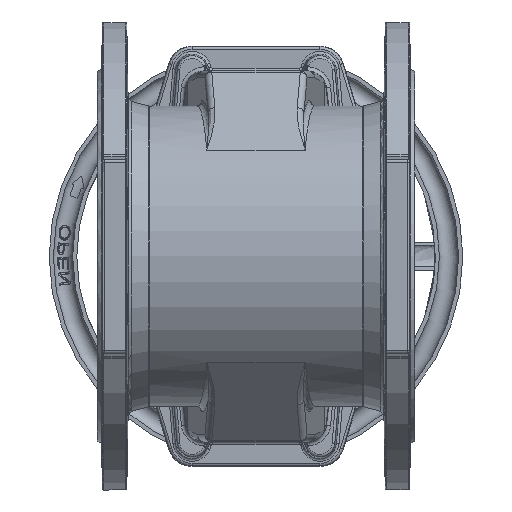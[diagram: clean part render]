
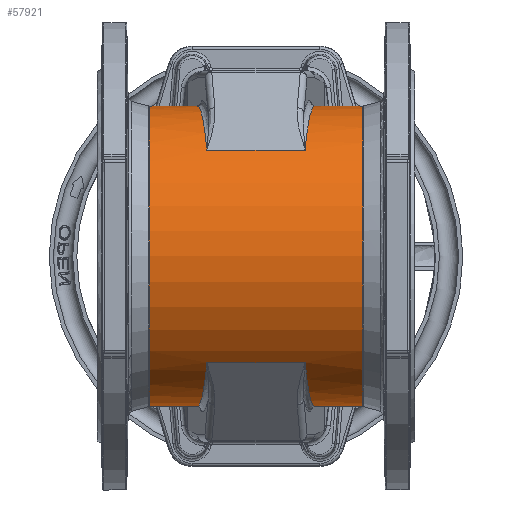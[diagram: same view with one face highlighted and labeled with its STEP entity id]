
A CAD part, front view. The second image highlights one B-rep face of the part: STEP entity #57921.
In plain terms, the highlighted cylindrical face has radius 109 mm (diameter 218 mm), a partial arc.
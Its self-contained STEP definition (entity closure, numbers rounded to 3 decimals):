
#39681 = CARTESIAN_POINT ( 'NONE',  ( -35.621, -77.075, 77.075 ) ) ;
#39683 =( BOUNDED_CURVE ( )  B_SPLINE_CURVE ( 3, ( #39681, #39723, #39722, #39721 ),
 .UNSPECIFIED., .F., .T. ) 
 B_SPLINE_CURVE_WITH_KNOTS ( ( 4, 4 ),
 ( 3.927, 6.216 ),
 .UNSPECIFIED. ) 
 CURVE ( )  GEOMETRIC_REPRESENTATION_ITEM ( )  RATIONAL_B_SPLINE_CURVE ( ( 1., 0.609, 0.609, 1. ) ) 
 REPRESENTATION_ITEM ( '' )  );
#39684 = DIRECTION ( 'NONE',  ( -1., 0., 0. ) ) ;
#39685 = VECTOR ( 'NONE', #39684, 1000. ) ;
#39686 = CARTESIAN_POINT ( 'NONE',  ( 59.501, 108.755, 7.299 ) ) ;
#39690 = LINE ( 'NONE', #39686, #39685 ) ;
#39721 = CARTESIAN_POINT ( 'NONE',  ( -52.476, 108.755, 7.299 ) ) ;
#39722 = CARTESIAN_POINT ( 'NONE',  ( -51.816, 101.479, 115.712 ) ) ;
#39723 = CARTESIAN_POINT ( 'NONE',  ( -42.59, -0.243, 153.906 ) ) ;
#40341 = DIRECTION ( 'NONE',  ( 1., 0., 0. ) ) ;
#40342 = VECTOR ( 'NONE', #40341, 1000. ) ;
#40345 = CARTESIAN_POINT ( 'NONE',  ( 59.501, 108.755, -7.299 ) ) ;
#40346 =( BOUNDED_CURVE ( )  B_SPLINE_CURVE ( 3, ( #40382, #40381, #40380, #40379 ),
 .UNSPECIFIED., .F., .T. ) 
 B_SPLINE_CURVE_WITH_KNOTS ( ( 4, 4 ),
 ( 0.785, 3.075 ),
 .UNSPECIFIED. ) 
 CURVE ( )  GEOMETRIC_REPRESENTATION_ITEM ( )  RATIONAL_B_SPLINE_CURVE ( ( 1., 0.609, 0.609, 1. ) ) 
 REPRESENTATION_ITEM ( '' )  );
#40355 = LINE ( 'NONE', #40345, #40342 ) ;
#40359 = CARTESIAN_POINT ( 'NONE',  ( 35.621, -77.075, -77.075 ) ) ;
#40379 = CARTESIAN_POINT ( 'NONE',  ( 52.476, 108.755, -7.299 ) ) ;
#40380 = CARTESIAN_POINT ( 'NONE',  ( 51.816, 101.479, -115.712 ) ) ;
#40381 = CARTESIAN_POINT ( 'NONE',  ( 42.59, -0.243, -153.906 ) ) ;
#40382 = CARTESIAN_POINT ( 'NONE',  ( 35.621, -77.075, -77.075 ) ) ;
#40459 = CARTESIAN_POINT ( 'NONE',  ( 52.476, 108.755, -7.299 ) ) ;
#40517 = CARTESIAN_POINT ( 'NONE',  ( -52.476, 108.755, 7.299 ) ) ;
#40519 = CARTESIAN_POINT ( 'NONE',  ( 77.331, 108.755, -7.299 ) ) ;
#40715 =( BOUNDED_CURVE ( )  B_SPLINE_CURVE ( 3, ( #40739, #40738, #40737, #40736 ),
 .UNSPECIFIED., .F., .T. ) 
 B_SPLINE_CURVE_WITH_KNOTS ( ( 4, 4 ),
 ( 0.067, 2.356 ),
 .UNSPECIFIED. ) 
 CURVE ( )  GEOMETRIC_REPRESENTATION_ITEM ( )  RATIONAL_B_SPLINE_CURVE ( ( 1., 0.609, 0.609, 1. ) ) 
 REPRESENTATION_ITEM ( '' )  );
#40716 = DIRECTION ( 'NONE',  ( -1., 0., 0. ) ) ;
#40719 = FACE_OUTER_BOUND ( 'NONE', #58092, .T. ) ;
#40720 = DIRECTION ( 'NONE',  ( 1., 0., 0. ) ) ;
#40721 = VECTOR ( 'NONE', #40720, 1000. ) ;
#40722 = CARTESIAN_POINT ( 'NONE',  ( 59.501, 108.755, -7.299 ) ) ;
#40723 = LINE ( 'NONE', #40722, #40721 ) ;
#40724 = CARTESIAN_POINT ( 'NONE',  ( 52.476, 108.755, 7.299 ) ) ;
#40725 = CYLINDRICAL_SURFACE ( 'NONE', #40726, 109. ) ;
#40726 = AXIS2_PLACEMENT_3D ( 'NONE', #40735, #40716, #40733 ) ;
#40732 = CARTESIAN_POINT ( 'NONE',  ( 77.331, 108.755, 7.299 ) ) ;
#40733 = DIRECTION ( 'NONE',  ( 0., 0., 1. ) ) ;
#40735 = CARTESIAN_POINT ( 'NONE',  ( 59.501, 0., 0. ) ) ;
#40736 = CARTESIAN_POINT ( 'NONE',  ( -35.621, -77.075, -77.075 ) ) ;
#40737 = CARTESIAN_POINT ( 'NONE',  ( -42.59, -0.243, -153.906 ) ) ;
#40738 = CARTESIAN_POINT ( 'NONE',  ( -51.816, 101.479, -115.712 ) ) ;
#40739 = CARTESIAN_POINT ( 'NONE',  ( -52.476, 108.755, -7.299 ) ) ;
#42038 = CARTESIAN_POINT ( 'NONE',  ( -52.476, 108.755, -7.299 ) ) ;
#42094 = CARTESIAN_POINT ( 'NONE',  ( -35.621, -77.075, -77.075 ) ) ;
#42160 = CARTESIAN_POINT ( 'NONE',  ( -77.331, 108.755, -7.299 ) ) ;
#43533 = CIRCLE ( 'NONE', #43535, 109. ) ;
#43535 = AXIS2_PLACEMENT_3D ( 'NONE', #43596, #43595, #43594 ) ;
#43585 = CARTESIAN_POINT ( 'NONE',  ( 35.621, -77.075, 77.075 ) ) ;
#43591 = LINE ( 'NONE', #43639, #43638 ) ;
#43593 = AXIS2_PLACEMENT_3D ( 'NONE', #43636, #43663, #43662 ) ;
#43594 = DIRECTION ( 'NONE',  ( 0., 0., 1. ) ) ;
#43595 = DIRECTION ( 'NONE',  ( 1., 0., 0. ) ) ;
#43596 = CARTESIAN_POINT ( 'NONE',  ( -77.331, 0., 0. ) ) ;
#43598 = CARTESIAN_POINT ( 'NONE',  ( -77.331, 108.755, 7.299 ) ) ;
#43621 = CIRCLE ( 'NONE', #43593, 109. ) ;
#43636 = CARTESIAN_POINT ( 'NONE',  ( 77.331, 0., 0. ) ) ;
#43637 = DIRECTION ( 'NONE',  ( -1., 0., 0. ) ) ;
#43638 = VECTOR ( 'NONE', #43637, 1000. ) ;
#43639 = CARTESIAN_POINT ( 'NONE',  ( 59.501, 108.755, 7.299 ) ) ;
#43641 = DIRECTION ( 'NONE',  ( -1., 0., 0. ) ) ;
#43642 = VECTOR ( 'NONE', #43641, 1000. ) ;
#43643 = CARTESIAN_POINT ( 'NONE',  ( 59.501, -77.075, -77.075 ) ) ;
#43644 = LINE ( 'NONE', #43643, #43642 ) ;
#43661 = CARTESIAN_POINT ( 'NONE',  ( -35.621, -77.075, 77.075 ) ) ;
#43662 = DIRECTION ( 'NONE',  ( 0., 0., 1. ) ) ;
#43663 = DIRECTION ( 'NONE',  ( -1., 0., 0. ) ) ;
#43669 = DIRECTION ( 'NONE',  ( -1., 0., 0. ) ) ;
#43670 = VECTOR ( 'NONE', #43669, 1000. ) ;
#43671 = CARTESIAN_POINT ( 'NONE',  ( 59.501, -77.075, 77.075 ) ) ;
#43672 = LINE ( 'NONE', #43671, #43670 ) ;
#57742 = EDGE_CURVE ( 'NONE', #57886, #58073, #39690, .T. ) ;
#57744 = ORIENTED_EDGE ( 'NONE', *, *, #57745, .T. ) ;
#57745 = EDGE_CURVE ( 'NONE', #58096, #57886, #39683, .T. ) ;
#57746 = ORIENTED_EDGE ( 'NONE', *, *, #57917, .T. ) ;
#57853 = EDGE_CURVE ( 'NONE', #57884, #57882, #40355, .T. ) ;
#57854 = EDGE_CURVE ( 'NONE', #57855, #57884, #40346, .T. ) ;
#57855 = VERTEX_POINT ( 'NONE', #40359 ) ;
#57856 = ORIENTED_EDGE ( 'NONE', *, *, #58080, .F. ) ;
#57877 = ORIENTED_EDGE ( 'NONE', *, *, #57854, .T. ) ;
#57882 = VERTEX_POINT ( 'NONE', #40519 ) ;
#57884 = VERTEX_POINT ( 'NONE', #40459 ) ;
#57886 = VERTEX_POINT ( 'NONE', #40517 ) ;
#57916 = ORIENTED_EDGE ( 'NONE', *, *, #58072, .T. ) ;
#57917 = EDGE_CURVE ( 'NONE', #58011, #58010, #40723, .T. ) ;
#57919 = EDGE_CURVE ( 'NONE', #58010, #58009, #40715, .T. ) ;
#57920 = VERTEX_POINT ( 'NONE', #40724 ) ;
#57921 = ADVANCED_FACE ( 'NONE', ( #40719 ), #40725, .T. ) ;
#57922 = VERTEX_POINT ( 'NONE', #40732 ) ;
#57923 = ORIENTED_EDGE ( 'NONE', *, *, #57853, .T. ) ;
#57935 = ORIENTED_EDGE ( 'NONE', *, *, #57742, .T. ) ;
#57938 = ORIENTED_EDGE ( 'NONE', *, *, #58095, .T. ) ;
#58009 = VERTEX_POINT ( 'NONE', #42094 ) ;
#58010 = VERTEX_POINT ( 'NONE', #42038 ) ;
#58011 = VERTEX_POINT ( 'NONE', #42160 ) ;
#58037 = ORIENTED_EDGE ( 'NONE', *, *, #58094, .T. ) ;
#58049 = ORIENTED_EDGE ( 'NONE', *, *, #57919, .T. ) ;
#58072 = EDGE_CURVE ( 'NONE', #58073, #58011, #43533, .T. ) ;
#58073 = VERTEX_POINT ( 'NONE', #43598 ) ;
#58074 = ORIENTED_EDGE ( 'NONE', *, *, #58081, .T. ) ;
#58080 = EDGE_CURVE ( 'NONE', #57855, #58009, #43644, .T. ) ;
#58081 = EDGE_CURVE ( 'NONE', #57922, #57920, #43591, .T. ) ;
#58082 = VERTEX_POINT ( 'NONE', #43585 ) ;
#58092 = EDGE_LOOP ( 'NONE', ( #57877, #57923, #57938, #58074, #58097, #58037, #57744, #57935, #57916, #57746, #58049, #57856 ) ) ;
#58094 = EDGE_CURVE ( 'NONE', #58082, #58096, #43672, .T. ) ;
#58095 = EDGE_CURVE ( 'NONE', #57882, #57922, #43621, .T. ) ;
#58096 = VERTEX_POINT ( 'NONE', #43661 ) ;
#58097 = ORIENTED_EDGE ( 'NONE', *, *, #58167, .T. ) ;
#58167 = EDGE_CURVE ( 'NONE', #57920, #58082, #60912, .T. ) ;
#60901 = CARTESIAN_POINT ( 'NONE',  ( 35.621, -77.075, 77.075 ) ) ;
#60902 = CARTESIAN_POINT ( 'NONE',  ( 42.59, -0.243, 153.906 ) ) ;
#60903 = CARTESIAN_POINT ( 'NONE',  ( 51.816, 101.479, 115.712 ) ) ;
#60904 = CARTESIAN_POINT ( 'NONE',  ( 52.476, 108.755, 7.299 ) ) ;
#60912 =( BOUNDED_CURVE ( )  B_SPLINE_CURVE ( 3, ( #60904, #60903, #60902, #60901 ),
 .UNSPECIFIED., .F., .T. ) 
 B_SPLINE_CURVE_WITH_KNOTS ( ( 4, 4 ),
 ( 3.209, 5.498 ),
 .UNSPECIFIED. ) 
 CURVE ( )  GEOMETRIC_REPRESENTATION_ITEM ( )  RATIONAL_B_SPLINE_CURVE ( ( 1., 0.609, 0.609, 1. ) ) 
 REPRESENTATION_ITEM ( '' )  );
